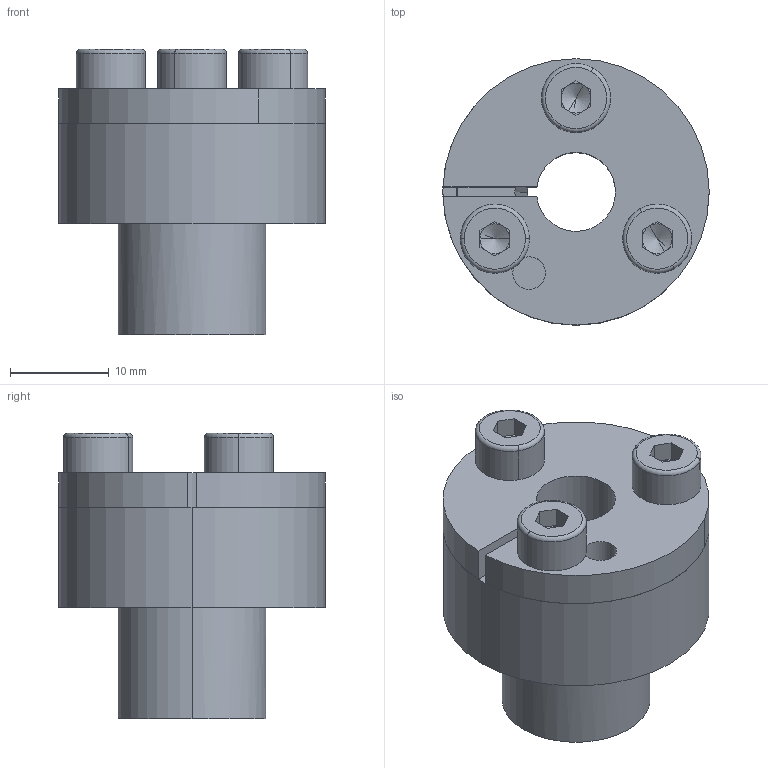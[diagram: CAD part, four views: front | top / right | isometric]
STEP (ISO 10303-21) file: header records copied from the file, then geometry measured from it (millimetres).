
FILE_DESCRIPTION (( 'STEP AP214' ), '1' );
FILE_NAME ('CONEX-B-08x15.step', '2013-04-04T12:40:56', ( 'Pc' ), ( '' ), 'SwSTEP 2.0', 'SolidWorks 2013', '' );
FILE_SCHEMA (( 'AUTOMOTIVE_DESIGN' ));
Length unit declared in the file: millimetre
Products named in the file (1): CONEX-B-08x15
Bounding box: 27 x 27 x 28.91 mm (x, y, z)
Volume: 7306.6 mm3; surface area: 7982.4 mm2
Topology: 6 solids, 6 shells, 140 faces, 333 edges, 202 vertices
Faces by surface type: plane 57, cylinder 42, torus 20, cone 18, bspline 3
Entity records: 5792 total; most frequent: CARTESIAN_POINT 828, DIRECTION 762, ORIENTED_EDGE 654, EDGE_CURVE 327, AXIS2_PLACEMENT_3D 308, VERTEX_POINT 202, CIRCLE 170, EDGE_LOOP 159
